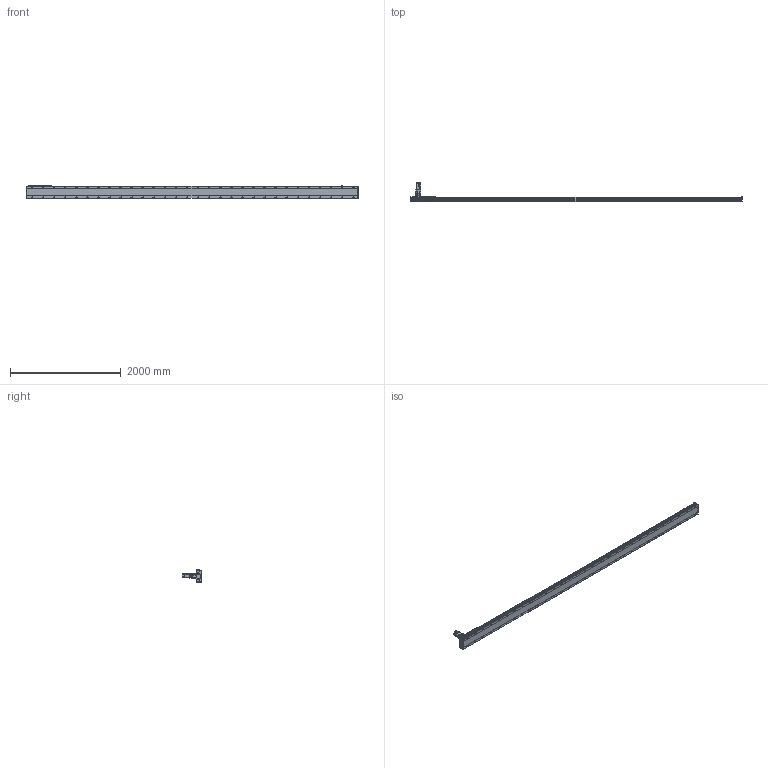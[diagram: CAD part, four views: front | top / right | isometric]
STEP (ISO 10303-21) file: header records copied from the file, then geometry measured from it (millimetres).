
FILE_DESCRIPTION(/* description */ ('STEP AP214'),/* implementation_level */ '2;1');
FILE_NAME(/* name */ 'SHS22A-L13-S5500-BC-T75-C1-N(0)',/* time_stamp */ '2022-06-15T02:29:34+02:00',/* author */ ('License CC BY-ND 4.0'),/* organization */ ('CADENAS'),/* preprocessor_version */ 'ST-DEVELOPER v18.102',/* originating_system */ 'PARTsolutions',/* authorisation */ ' ');
FILE_SCHEMA (('AUTOMOTIVE_DESIGN {1 0 10303 214 3 1 1}'));
Length unit declared in the file: millimetre
Products named in the file (7): SHS22A-L13-S5500-BC-T75-C1-N(0); PSC140-sensor; SHS22A-S5500_body2; T75-p1; SHS22A-S5500_body3; SHS22A-S5500_slider; SHS22A-L13-S5500-BC-T75-C1(0)_body
Assembly tree (13 placements, depth 2):
  SHS22A-L13-S5500-BC-T75-C1-N(0)
    PSC140-sensor  x3
    SHS22A-S5500_body2  x6
    T75-p1
    SHS22A-S5500_body3
    SHS22A-S5500_slider
    SHS22A-L13-S5500-BC-T75-C1(0)_body
Bounding box: 5994 x 350.8 x 238.4 mm (x, y, z)
Volume: 62820231.1 mm3; surface area: 6362655 mm2
Topology: 13 solids, 13 shells, 2061 faces, 5255 edges, 3436 vertices
Faces by surface type: plane 1400, cylinder 527, cone 125, torus 9
Full cylindrical faces by diameter (mm): 2.8 x3, 4.2 x2, 4.6 x3, 4.917 x4, 5 x4, 5.6 x24, 6 x31, 6.6 x24, 6.647 x8, 6.8 x9, 7.75 x6, 8 x3, 8.376 x60, 8.5 x60, 10 x4, 11 x4, 12 x24, 14 x60, 22 x1, 24.1 x1, 28 x1, 28.2 x1, 28.8 x1, 48.542 x1, 68 x1, 70 x1, 78 x1, 80 x2
Entity records: 35963 total; most frequent: CARTESIAN_POINT 6593, DIRECTION 6107, ORIENTED_EDGE 5340, EDGE_CURVE 2670, AXIS2_PLACEMENT_3D 2252, FACE_BOUND 2020, EDGE_LOOP 2019, VERTEX_POINT 1966
